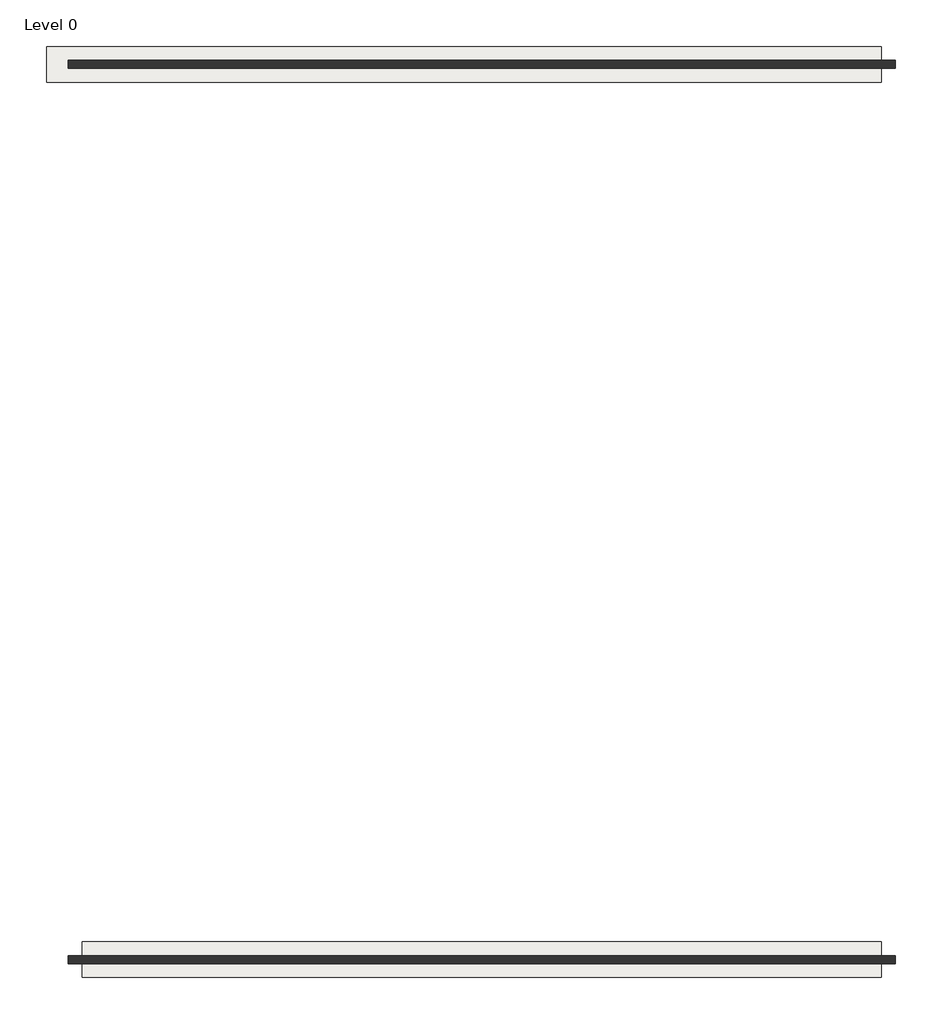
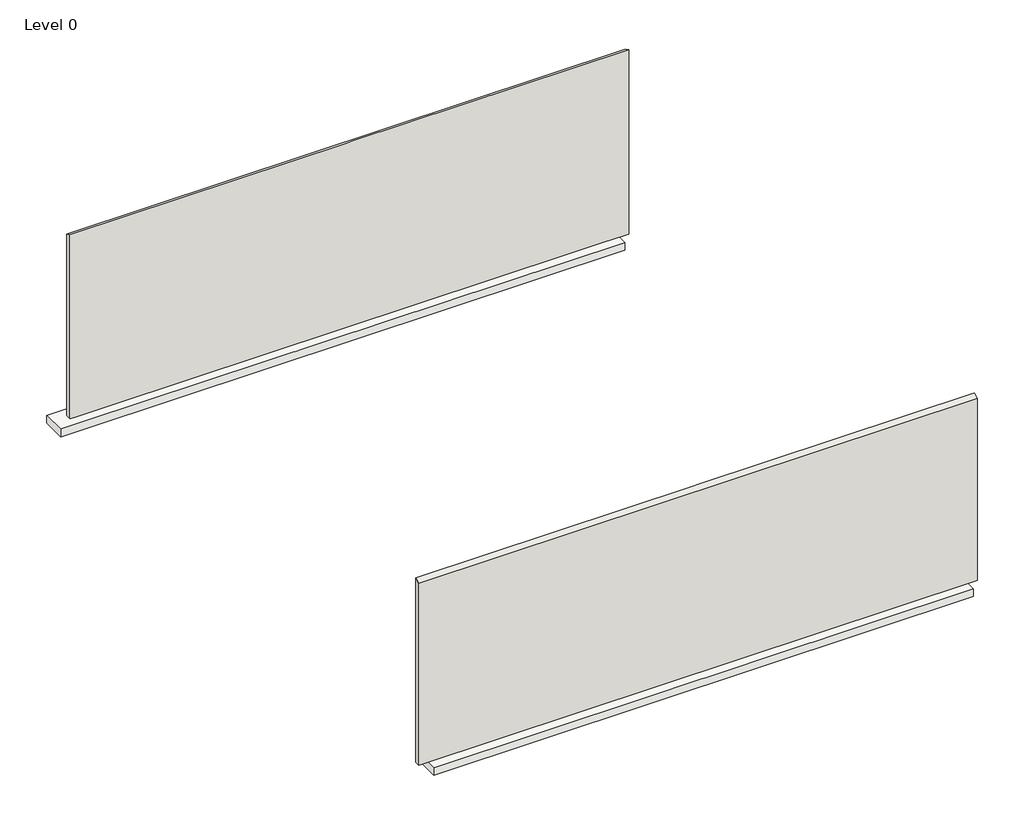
# One storey: 2 footings, 2 walls.
"""IFC4 building model written with IfcOpenShell, lengths in millimetres."""

from ifc_helpers import new_model, si_unit, frame, origin, place, context, project, spatial, polyline, outline, extrude, faceted_brep, element, save

model = new_model("IFC4")

# Units and contexts
model_context = context("Model", 3, world=origin())
ifc_project = project(units=[si_unit("LENGTHUNIT", "METRE", prefix="MILLI")], contexts=[model_context])

# Site, building, storey
site = spatial("IfcSite", under=ifc_project)
building = spatial("IfcBuilding", under=site)
storey = spatial("IfcBuildingStorey", under=building, Name="Level 0", Elevation=-1524.0)

# Footings
placement = place(None, origin())
element("IfcFooting", 1, ObjectType="Bearing Footing - 36\" x 12\"", at=placement, inside=storey, context=model_context, shape_type="Brep", body=[
    faceted_brep([(-11258.9057377, 12871.8214805, -1524.0), (-11258.9057377, 11957.4214805, -1524.0), (-10344.5057377, 11957.4214805, -1524.0), (10077.0942623, 11957.4214805, -1524.0), (10077.0942623, 12871.8214805, -1524.0), (-11258.9057377, 12871.8214805, -1828.8), (10077.0942623, 12871.8214805, -1828.8), (-11258.9057377, 11957.4214805, -1828.8), (10077.0942623, 11957.4214805, -1828.8), (-10344.5057377, 11957.4214805, -1828.8)], [[[0, 1, 2, 3, 4]], [[5, 0, 4, 6]], [[7, 5, 6, 8, 9]], [[1, 7, 9, 8, 3, 2]], [[4, 3, 8, 6]], [[1, 0, 5, 7]]]),
])
element("IfcFooting", 2, ObjectType="Bearing Footing - 36\" x 12\"", at=placement, inside=storey, context=model_context, shape_type="SweptSolid", body=[
    extrude(outline(polyline([(10077.0942623, -9988.1785195), (10077.0942623, -10902.5785195), (-10344.5057377, -10902.5785195), (-10344.5057377, -9988.1785195), (10077.0942623, -9988.1785195)])), frame((0.0, 0.0, -1828.8), z_axis=(0.0, 0.0, 1.0), x_axis=(1.0, 0.0, 0.0)), (0.0, 0.0, 1.0), 304.8),
])

# Walls
element("IfcWall", 3, ObjectType="Generic - 8\"", at=placement, inside=storey, context=model_context, shape_type="Brep", body=[
    faceted_brep([(-10700.1057377, 12313.0214805, -1524.0), (10432.6942623, 12313.0214805, -1524.0), (10432.6942623, 12313.0214805, 5856.8232402), (-32.1057377, 12313.0214805, 5856.8232402), (-235.3057377, 12313.0214805, 5856.8232402), (-10700.1057377, 12313.0214805, 5856.8232402), (-10700.1057377, 12516.2214805, -1524.0), (-10700.1057377, 12516.2214805, 5755.2232402), (10432.6942623, 12516.2214805, 5755.2232402), (10432.6942623, 12516.2214805, 5073.6697207), (10432.6942623, 12516.2214805, -1524.0)], [[[0, 1, 2, 3, 4, 5]], [[6, 7, 8, 9, 10]], [[1, 0, 6, 10]], [[2, 1, 10, 9, 8]], [[0, 5, 7, 6]], [[5, 4, 3, 2, 8, 7]]]),
])
element("IfcWall", 4, ObjectType="Generic - 8\"", at=placement, inside=storey, context=model_context, shape_type="Brep", body=[
    faceted_brep([(10432.6942623, -10343.7785195, -1524.0), (-10700.1057377, -10343.7785195, -1524.0), (-10700.1057377, -10343.7785195, 5856.8232402), (-235.3057377, -10343.7785195, 5856.8232402), (-32.1057377, -10343.7785195, 5856.8232402), (10432.6942623, -10343.7785195, 5856.8232402), (10432.6942623, -10546.9785195, -1524.0), (10432.6942623, -10546.9785195, 5073.6697207), (10432.6942623, -10546.9785195, 5755.2232402), (-10700.1057377, -10546.9785195, 5755.2232402), (-10700.1057377, -10546.9785195, -1524.0)], [[[0, 1, 2, 3, 4, 5]], [[6, 7, 8, 9, 10]], [[1, 0, 6, 10]], [[0, 5, 8, 7, 6]], [[2, 1, 10, 9]], [[5, 4, 3, 2, 9, 8]]]),
])

save(model, "model.ifc")
